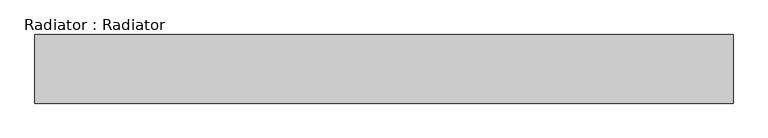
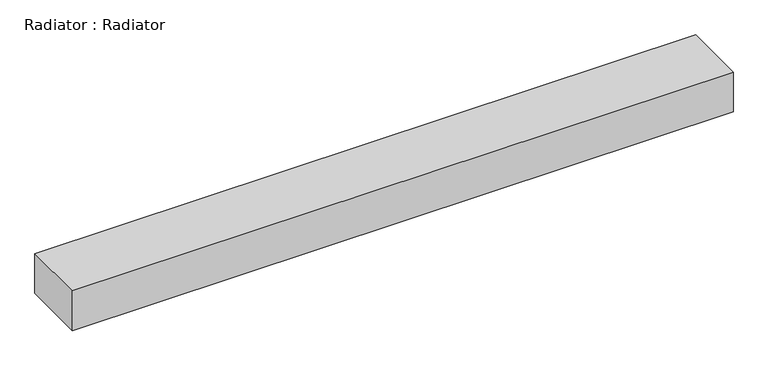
"""IFC4 building model written with IfcOpenShell, lengths in millimetres: proxy geometry, Radiator : Radiator."""

from ifc_helpers import new_model, si_unit, frame, origin, place, context, project, spatial, polyline, outline, extrude, source, transform, mapped, element, save


def radiator_radiator_24426470(model_context):
    return source(origin(), model_context, "Body", "SweptSolid", [
        extrude(outline(polyline([(9946.9384309, -6010.5270567), (18231.9211174, -6010.5270567), (18231.9211174, -6824.7064015), (9946.9384309, -6824.7064015), (9946.9384309, -6010.5270567)])), frame((0.0, 0.0, 51206.4), z_axis=(0.0, 0.0, 1.0), x_axis=(1.0, 0.0, 0.0)), (0.0, 0.0, 1.0), 526.0281286),
    ])


if __name__ == "__main__":
    model = new_model("IFC4")
    model_context = context("Model", 3, world=origin())
    ifc_project = project(units=[si_unit("LENGTHUNIT", "METRE", prefix="MILLI")], contexts=[model_context])
    site = spatial("IfcSite", under=ifc_project)
    building = spatial("IfcBuilding", under=site)
    placement = place(None, origin())
    radiator_radiator_shape = radiator_radiator_24426470(model_context)
    element("IfcBuildingElementProxy", 1, Name="Radiator : Radiator", ObjectType="Radiator : Radiator", at=placement, inside=building, context=model_context, shape_type="MappedRepresentation", body=[
        mapped(radiator_radiator_shape, transform((0.0, 0.0, 0.0), x_axis=(1.0, 0.0, 0.0), y_axis=(0.0, 1.0, 0.0), z_axis=(0.0, 0.0, 1.0))),
    ])
    save(model, "model.ifc")
